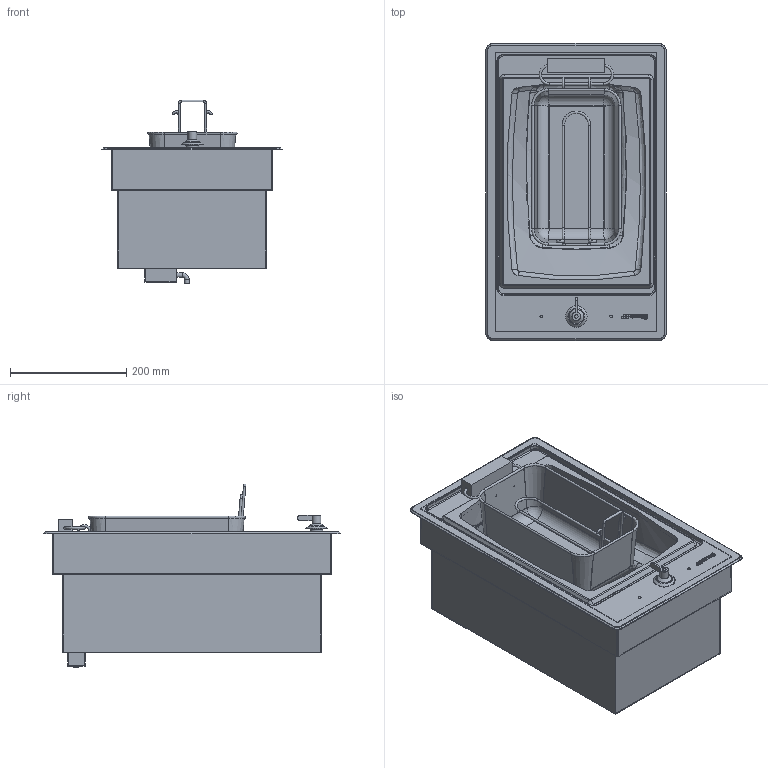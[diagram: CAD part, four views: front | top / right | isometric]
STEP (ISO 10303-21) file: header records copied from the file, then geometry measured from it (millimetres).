
FILE_DESCRIPTION(/* description */ (''),/* implementation_level */ '2;1');
FILE_NAME(/* name */ 'piano pgf30f.stp',/* time_stamp */ '2018-11-07T10:00:55+01:00',/* author */ (''),/* organization */ (''),/* preprocessor_version */ 'ST-DEVELOPER v16',/* originating_system */ 'SIEMENS PLM Software NX 11.0',/* authorisation */ '');
FILE_SCHEMA (('AUTOMOTIVE_DESIGN { 1 0 10303 214 3 1 1 1 }'));
Length unit declared in the file: millimetre
Products named in the file (1): gobb29B8FD47tbom
Bounding box: 310.8 x 510.8 x 316.04 mm (x, y, z)
Volume: 1138473.3 mm3; surface area: 1783646.9 mm2
Topology: 25 solids, 25 shells, 404 faces, 898 edges, 549 vertices
Faces by surface type: plane 154, cylinder 127, bspline 49, torus 41, cone 22, extrusion 11
Full cylindrical faces by diameter (mm): 3.988 x6, 4 x11, 5 x2, 6 x4, 8 x2, 14.996 x1, 17 x1, 20 x1, 22 x1
Entity records: 17356 total; most frequent: CARTESIAN_POINT 8721, DIRECTION 1718, ORIENTED_EDGE 1660, EDGE_CURVE 830, AXIS2_PLACEMENT_3D 661, VERTEX_POINT 541, EDGE_LOOP 481, ADVANCED_FACE 404
